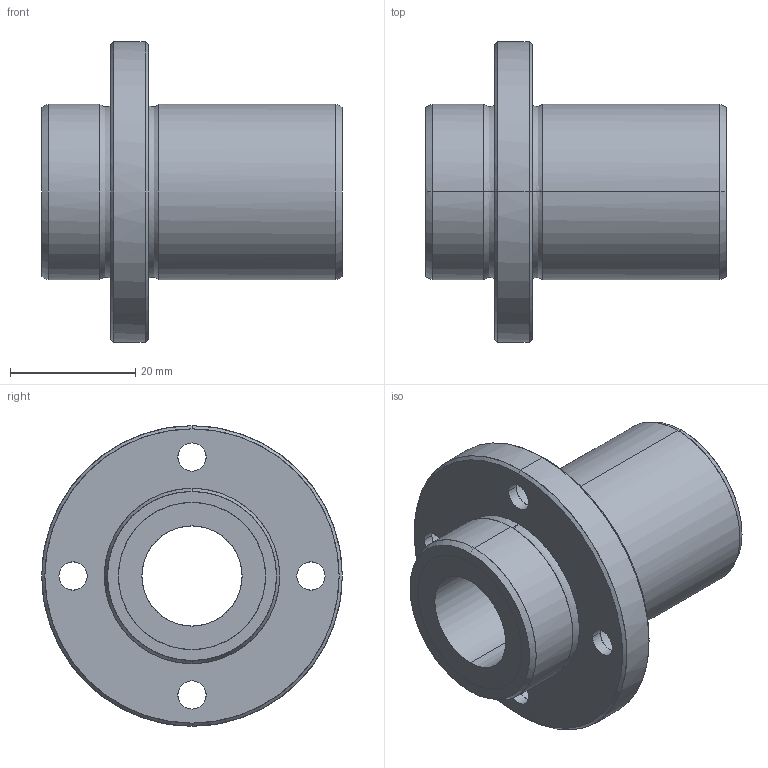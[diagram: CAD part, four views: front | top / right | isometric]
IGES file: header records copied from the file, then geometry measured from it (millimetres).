
Global section: file name: No Iges File Name specified; native system: AutoDesk Inventor R11.0; preprocessor: AutoDesk Inventor Iges Exporter R11.0; author: No Author specified; organization: No Organization specified; date: 20170921.131848; units: millimetre
Bounding box: 48 x 48 x 48 mm (x, y, z)
Surface area: 10533.5 mm2 (no closed solid volume)
Topology: 0 solids, 0 shells, 50 faces, 352 edges, 352 vertices
Faces by surface type: bspline 50
